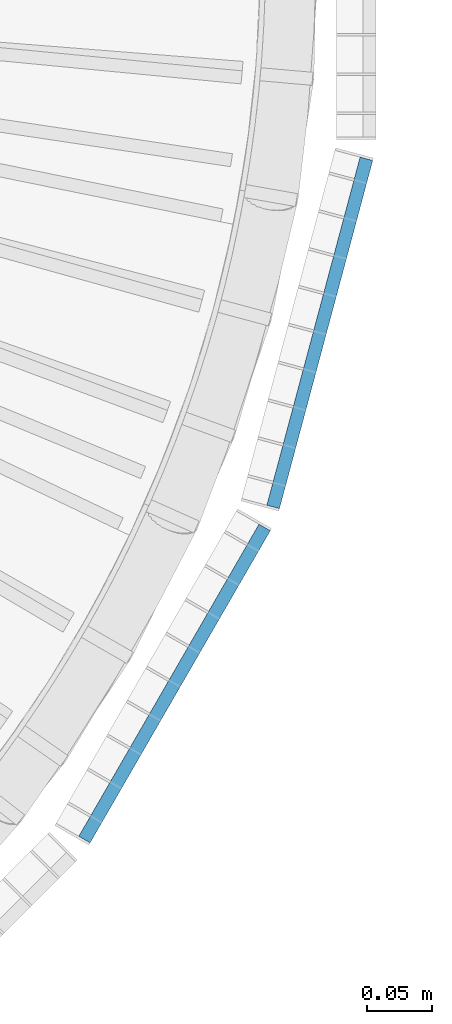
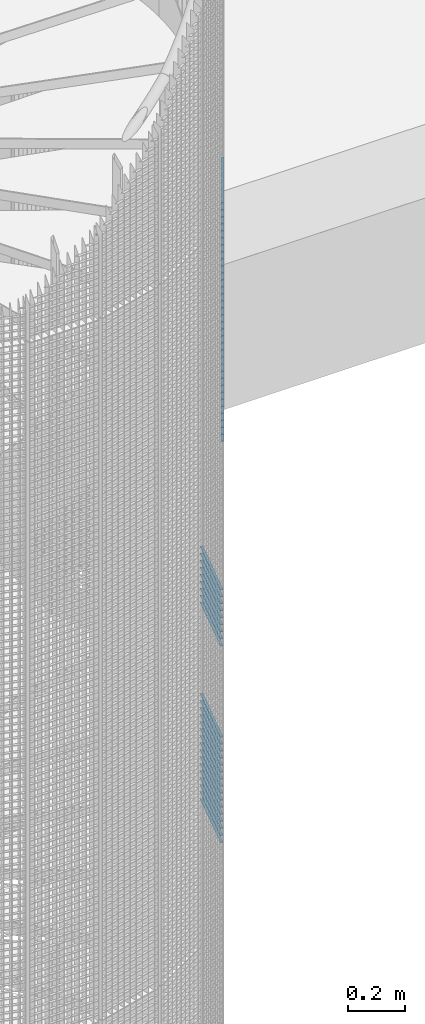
# One storey, part 241 of 1148: 60 beams, 2 elements without a shape of their own.
"""IFC2X3 building model written with IfcOpenShell, lengths in millimetres."""

import ifcopenshell
import ifcopenshell.guid

model = None  # the IFC model being written
_history = None  # IfcOwnerHistory: only IFC2X3 demands one
_inside = {}  # id of a spatial element -> (the spatial element, [elements in it])
_under = {}  # id of a project, library or spatial element -> (it, [spatial elements below it])
_declared = {}  # id of a project -> (the project, [libraries it declares])
_typed = {}  # id of a type object -> (the type object, [elements of that type])
_made_of = {}  # id of a material, layer set ... -> (it, [elements and type objects made of it])


def new_model(schema):
    """Start an empty IFC model of exactly this schema.

    Asked for "IFC4X3", IfcOpenShell would pick the latest addendum, in which some entities
    have other attributes; the version numbers below select the first issue.
    IFC2X3 requires an IfcOwnerHistory on every rooted entity: one is made here for all.
    """
    global model, _history
    if schema == "IFC4X3":
        model = ifcopenshell.file(schema_version=(4, 3, 0, 0))
    else:
        model = ifcopenshell.file(schema=schema)
    _inside.clear()
    _under.clear()
    _declared.clear()
    _typed.clear()
    _made_of.clear()
    _history = None
    if model.schema == "IFC2X3":
        org = make("IfcOrganization", Name="unknown")
        user = make(
            "IfcPersonAndOrganization",
            ThePerson=make("IfcPerson", FamilyName="unknown"),
            TheOrganization=org,
        )
        app = make(
            "IfcApplication",
            ApplicationDeveloper=org,
            Version="unknown",
            ApplicationFullName="unknown",
            ApplicationIdentifier="unknown",
        )
        _history = make(
            "IfcOwnerHistory",
            OwningUser=user,
            OwningApplication=app,
            ChangeAction="ADDED",
            CreationDate=0,
        )
    return model


def make(cls, **values):
    """One entity of the class cls with the attributes given. An attribute that is None is left unset."""
    return model.create_entity(
        cls, **{name: value for name, value in values.items() if value is not None}
    )


def rooted(cls, **values):
    """An entity with a GlobalId (a new one), such as an element, a storey or a relation."""
    return make(cls, GlobalId=ifcopenshell.guid.new(), OwnerHistory=_history, **values)


def si_unit(unit_type, name, prefix=None):
    """IfcSIUnit, for example si_unit("LENGTHUNIT", "METRE", prefix="MILLI")."""
    return make("IfcSIUnit", UnitType=unit_type, Prefix=prefix, Name=name)


def assignment(units):
    """IfcUnitAssignment: the units of a project."""
    return None if units is None else make("IfcUnitAssignment", Units=units)


def point(xyz):
    """IfcCartesianPoint."""
    return None if xyz is None else make("IfcCartesianPoint", Coordinates=xyz)


def direction(xyz):
    """IfcDirection."""
    return None if xyz is None else make("IfcDirection", DirectionRatios=xyz)


def frame(location, z_axis=None, x_axis=None):
    """IfcAxis2Placement3D, a coordinate frame: its origin and axes. An axis left out is left unset."""
    return make(
        "IfcAxis2Placement3D",
        Location=point(location),
        Axis=direction(z_axis),
        RefDirection=direction(x_axis),
    )


def frame_2d(location, x_axis=None):
    """IfcAxis2Placement2D, a coordinate frame in the plane: its origin and x axis."""
    return make(
        "IfcAxis2Placement2D", Location=point(location), RefDirection=direction(x_axis)
    )


def origin_with_axes():
    """The frame at (0, 0, 0) with the z axis (0, 0, 1) and the x axis (1, 0, 0) written out."""
    return frame((0.0, 0.0, 0.0), z_axis=(0.0, 0.0, 1.0), x_axis=(1.0, 0.0, 0.0))


def origin_2d_with_axis():
    """The frame at (0, 0) in the plane with the x axis (1, 0) written out."""
    return frame_2d((0.0, 0.0), x_axis=(1.0, 0.0))


def place(relative_to, where):
    """IfcLocalPlacement: puts the frame where relative to a parent placement (None: the world)."""
    return make(
        "IfcLocalPlacement", PlacementRelTo=relative_to, RelativePlacement=where
    )


def context(
    kind, dimensions, precision=None, world=None, true_north=None, identifier=None
):
    """IfcGeometricRepresentationContext, for example the 3D "Model" context."""
    return make(
        "IfcGeometricRepresentationContext",
        ContextIdentifier=identifier,
        ContextType=kind,
        CoordinateSpaceDimension=dimensions,
        Precision=precision,
        WorldCoordinateSystem=world,
        TrueNorth=true_north,
    )


def subcontext(parent, identifier, kind, view, scale=None):
    """IfcGeometricRepresentationSubContext, for example "Body" below "Model"."""
    return make(
        "IfcGeometricRepresentationSubContext",
        ContextIdentifier=identifier,
        ContextType=kind,
        ParentContext=parent,
        TargetScale=scale,
        TargetView=view,
    )


def project(units=None, contexts=None):
    """IfcProject with its units and contexts."""
    return rooted(
        "IfcProject",
        Name="project",
        RepresentationContexts=contexts,
        UnitsInContext=assignment(units),
    )


def spatial(cls, under=None, at=None, **own):
    """A site, building, storey or space (cls), placed at a placement, below another one or the project."""
    s = rooted(cls, ObjectPlacement=at, **own)
    if under is not None:
        _under.setdefault(under.id(), (under, []))[1].append(s)
    return s


def profile(cls, at=None, kind="AREA", **sizes):
    """A parametric profile (cls). Its sizes go by their IFC names, for example OverallWidth=200.0."""
    return make(cls, ProfileType=kind, Position=at, **sizes)


def rectangle(**sizes):
    """IfcRectangleProfileDef."""
    return profile("IfcRectangleProfileDef", **sizes)


def extrude(swept, where, along, depth):
    """IfcExtrudedAreaSolid: the profile swept, set in the frame where, extruded along a direction by depth."""
    return make(
        "IfcExtrudedAreaSolid",
        SweptArea=swept,
        Position=where,
        ExtrudedDirection=direction(along),
        Depth=depth,
    )


def shape(context_of_items, identifier, shape_type, items):
    """IfcShapeRepresentation: the items that make up one representation, for example the "Body"."""
    return make(
        "IfcShapeRepresentation",
        ContextOfItems=context_of_items,
        RepresentationIdentifier=identifier,
        RepresentationType=shape_type,
        Items=items,
    )


def material(Name=None, Category=None):
    """IfcMaterial."""
    return make("IfcMaterial", Name=Name, Category=Category)


def made_of(thing, what):
    """Note that an element or type object is made of a material, layer set ...; save() writes the relation."""
    if what is not None:
        _made_of.setdefault(what.id(), (what, []))[1].append(thing)
    return thing


def type_object(cls, material=None, **own):
    """A type object (cls), such as IfcWallType, which elements share."""
    return made_of(rooted(cls, **own), material)


def element(
    cls,
    number,
    at=None,
    inside=None,
    cuts=None,
    type_object=None,
    material=None,
    context=None,
    identifier="Body",
    shape_type=None,
    held_by="IfcProductDefinitionShape",
    body=None,
    shapes=None,
    **own,
):
    """One element of the class cls, such as IfcWall. Its Tag is "e" and its number.

    at: its placement. inside: the storey or other place that contains it. cuts: it is an
    opening in that element (IfcRelVoidsElement). A single representation is given by context,
    identifier, shape_type and body (its items); several are given by shapes. held_by: the class
    of the entity that holds the representations. save() writes the other relations.
    """
    e = rooted(cls, Tag="e%d" % number, ObjectPlacement=at, **own)
    if body is not None:
        shapes = [shape(context, identifier, shape_type, body)]
    if shapes is not None:
        e.Representation = make(held_by, Representations=shapes)
    if inside is not None:
        _inside.setdefault(inside.id(), (inside, []))[1].append(e)
    if cuts is not None:
        rooted(
            "IfcRelVoidsElement", RelatingBuildingElement=cuts, RelatedOpeningElement=e
        )
    if type_object is not None:
        _typed.setdefault(type_object.id(), (type_object, []))[1].append(e)
    return made_of(e, material)


def aggregate(whole, parts):
    """IfcRelAggregates: a whole, such as a stair, and the parts it consists of."""
    return rooted("IfcRelAggregates", RelatingObject=whole, RelatedObjects=parts)


def save(model, path):
    """Write the relations noted so far, then the file.

    IfcRelAggregates (storeys below a building ...), IfcRelContainedInSpatialStructure (elements
    in a storey), IfcRelDefinesByType, IfcRelAssociatesMaterial and IfcRelDeclares: one each for
    every whole, place, type object, material and project.
    """
    for whole, parts in _under.values():
        aggregate(whole, parts)
    for where, things in _inside.values():
        rooted(
            "IfcRelContainedInSpatialStructure",
            RelatedElements=things,
            RelatingStructure=where,
        )
    for kind, things in _typed.values():
        rooted("IfcRelDefinesByType", RelatedObjects=things, RelatingType=kind)
    for what, things in _made_of.values():
        rooted("IfcRelAssociatesMaterial", RelatedObjects=things, RelatingMaterial=what)
    for by, libraries in _declared.values():
        rooted("IfcRelDeclares", RelatingContext=by, RelatedDefinitions=libraries)
    model.write(path)


model = new_model("IFC2X3")

# Units and contexts
model_context = context("Model", 3, precision=1e-05, world=origin_with_axes())
body_context = subcontext(model_context, "Body", "Model", "MODEL_VIEW")
ifc_project = project(units=[si_unit("LENGTHUNIT", "METRE", prefix="MILLI"), si_unit("AREAUNIT", "SQUARE_METRE"), si_unit("VOLUMEUNIT", "CUBIC_METRE"), si_unit("MASSUNIT", "GRAM", prefix="KILO"), si_unit("TIMEUNIT", "SECOND"), si_unit("PLANEANGLEUNIT", "RADIAN"), si_unit("SOLIDANGLEUNIT", "STERADIAN"), si_unit("THERMODYNAMICTEMPERATUREUNIT", "DEGREE_CELSIUS"), si_unit("LUMINOUSINTENSITYUNIT", "LUMEN")], contexts=[model_context])

# Site, building, storey
site_placement = place(None, origin_with_axes())
site = spatial("IfcSite", under=ifc_project, at=site_placement, Name="Undefined", CompositionType="ELEMENT")
building_placement = place(site_placement, origin_with_axes())
building = spatial("IfcBuilding", under=site, at=building_placement, Name="Undefined", CompositionType="ELEMENT")
storey_placement = place(building_placement, origin_with_axes())
storey = spatial("IfcBuildingStorey", under=building, at=storey_placement, Name="Undefined", CompositionType="ELEMENT", Elevation=0.0)

# Assembly, beams
assembly_1_placement = place(storey_placement, origin_with_axes())
assembly_1 = element("IfcElementAssembly", 1, at=assembly_1_placement, inside=storey, Name="BORDURE", AssemblyPlace="NOTDEFINED", PredefinedType="NOTDEFINED")
ifc_material = material(Name="STEEL/S235JR")
beam_type = type_object("IfcBeamType", Name="PL2*10", PredefinedType="NOTDEFINED")
beam_1_placement = place(assembly_1_placement, frame((1039.82309522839, -421.483733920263, 6480.0), z_axis=(0.965925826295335, -0.258819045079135, 0.0), x_axis=(0.258819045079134, 0.965925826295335, 0.0)))
beam_1 = element("IfcBeam", 2, at=beam_1_placement, type_object=beam_type, material=ifc_material, Name="ENTRETOISE", context=body_context, shape_type="SweptSolid", body=[
    extrude(rectangle(XDim=2.0, YDim=10.0, at=origin_2d_with_axis()), frame((275.999999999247, 9.09494701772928e-13, 1.53210777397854e-14), z_axis=(-1.0, 0.0, 0.0), x_axis=(0.0, -1.0, 0.0)), (0.0, 0.0, 1.0), 276.0),
])
beam_2_placement = place(assembly_1_placement, frame((1039.82309522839, -421.483733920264, 6870.0), z_axis=(0.965925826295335, -0.258819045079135, 0.0), x_axis=(0.258819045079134, 0.965925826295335, 0.0)))
beam_2 = element("IfcBeam", 3, at=beam_2_placement, type_object=beam_type, material=ifc_material, Name="ENTRETOISE", context=body_context, shape_type="SweptSolid", body=[
    extrude(rectangle(XDim=2.0, YDim=10.0, at=origin_2d_with_axis()), frame((275.999999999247, 9.09494701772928e-13, 1.53210777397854e-14), z_axis=(-1.0, 0.0, 0.0), x_axis=(0.0, -1.0, 0.0)), (0.0, 0.0, 1.0), 276.0),
])
beam_3_placement = place(assembly_1_placement, frame((1039.82309522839, -421.483733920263, 6450.0), z_axis=(0.965925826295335, -0.258819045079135, 0.0), x_axis=(0.258819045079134, 0.965925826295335, 0.0)))
beam_3 = element("IfcBeam", 4, at=beam_3_placement, type_object=beam_type, material=ifc_material, Name="ENTRETOISE", context=body_context, shape_type="SweptSolid", body=[
    extrude(rectangle(XDim=2.0, YDim=10.0, at=origin_2d_with_axis()), frame((275.999999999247, 9.09494701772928e-13, 1.53210777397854e-14), z_axis=(-1.0, 0.0, 0.0), x_axis=(0.0, -1.0, 0.0)), (0.0, 0.0, 1.0), 276.0),
])
beam_4_placement = place(assembly_1_placement, frame((1039.82309522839, -421.483733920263, 6420.0), z_axis=(0.965925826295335, -0.258819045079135, 0.0), x_axis=(0.258819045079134, 0.965925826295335, 0.0)))
beam_4 = element("IfcBeam", 5, at=beam_4_placement, type_object=beam_type, material=ifc_material, Name="ENTRETOISE", context=body_context, shape_type="SweptSolid", body=[
    extrude(rectangle(XDim=2.0, YDim=10.0, at=origin_2d_with_axis()), frame((275.999999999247, 9.09494701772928e-13, 1.53210777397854e-14), z_axis=(-1.0, 0.0, 0.0), x_axis=(0.0, -1.0, 0.0)), (0.0, 0.0, 1.0), 276.0),
])
beam_5_placement = place(assembly_1_placement, frame((1039.82309522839, -421.483733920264, 6900.0), z_axis=(0.965925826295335, -0.258819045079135, 0.0), x_axis=(0.258819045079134, 0.965925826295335, 0.0)))
beam_5 = element("IfcBeam", 6, at=beam_5_placement, type_object=beam_type, material=ifc_material, Name="ENTRETOISE", context=body_context, shape_type="SweptSolid", body=[
    extrude(rectangle(XDim=2.0, YDim=10.0, at=origin_2d_with_axis()), frame((275.999999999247, 9.09494701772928e-13, 1.53210777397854e-14), z_axis=(-1.0, 0.0, 0.0), x_axis=(0.0, -1.0, 0.0)), (0.0, 0.0, 1.0), 276.0),
])
beam_6_placement = place(assembly_1_placement, frame((1039.82309522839, -421.483733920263, 6390.0), z_axis=(0.965925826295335, -0.258819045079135, 0.0), x_axis=(0.258819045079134, 0.965925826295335, 0.0)))
beam_6 = element("IfcBeam", 7, at=beam_6_placement, type_object=beam_type, material=ifc_material, Name="ENTRETOISE", context=body_context, shape_type="SweptSolid", body=[
    extrude(rectangle(XDim=2.0, YDim=10.0, at=origin_2d_with_axis()), frame((275.999999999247, 9.09494701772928e-13, 1.53210777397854e-14), z_axis=(-1.0, 0.0, 0.0), x_axis=(0.0, -1.0, 0.0)), (0.0, 0.0, 1.0), 276.0),
])
beam_7_placement = place(assembly_1_placement, frame((1039.82309522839, -421.483733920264, 6930.0), z_axis=(0.965925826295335, -0.258819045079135, 0.0), x_axis=(0.258819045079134, 0.965925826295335, 0.0)))
beam_7 = element("IfcBeam", 8, at=beam_7_placement, type_object=beam_type, material=ifc_material, Name="ENTRETOISE", context=body_context, shape_type="SweptSolid", body=[
    extrude(rectangle(XDim=2.0, YDim=10.0, at=origin_2d_with_axis()), frame((275.999999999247, 9.09494701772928e-13, 1.53210777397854e-14), z_axis=(-1.0, 0.0, 0.0), x_axis=(0.0, -1.0, 0.0)), (0.0, 0.0, 1.0), 276.0),
])
beam_8_placement = place(assembly_1_placement, frame((1039.82309522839, -421.483733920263, 6360.0), z_axis=(0.965925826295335, -0.258819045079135, 0.0), x_axis=(0.258819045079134, 0.965925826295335, 0.0)))
beam_8 = element("IfcBeam", 9, at=beam_8_placement, type_object=beam_type, material=ifc_material, Name="ENTRETOISE", context=body_context, shape_type="SweptSolid", body=[
    extrude(rectangle(XDim=2.0, YDim=10.0, at=origin_2d_with_axis()), frame((275.999999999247, 9.09494701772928e-13, 1.53210777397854e-14), z_axis=(-1.0, 0.0, 0.0), x_axis=(0.0, -1.0, 0.0)), (0.0, 0.0, 1.0), 276.0),
])
beam_9_placement = place(assembly_1_placement, frame((1039.82309522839, -421.483733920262, 6330.0), z_axis=(0.965925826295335, -0.258819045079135, 0.0), x_axis=(0.258819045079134, 0.965925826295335, 0.0)))
beam_9 = element("IfcBeam", 10, at=beam_9_placement, type_object=beam_type, material=ifc_material, Name="ENTRETOISE", context=body_context, shape_type="SweptSolid", body=[
    extrude(rectangle(XDim=2.0, YDim=10.0, at=origin_2d_with_axis()), frame((275.999999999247, 9.09494701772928e-13, 1.53210777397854e-14), z_axis=(-1.0, 0.0, 0.0), x_axis=(0.0, -1.0, 0.0)), (0.0, 0.0, 1.0), 276.0),
])
beam_10_placement = place(assembly_1_placement, frame((1039.82309522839, -421.483733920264, 6960.0), z_axis=(0.965925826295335, -0.258819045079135, 0.0), x_axis=(0.258819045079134, 0.965925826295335, 0.0)))
beam_10 = element("IfcBeam", 11, at=beam_10_placement, type_object=beam_type, material=ifc_material, Name="ENTRETOISE", context=body_context, shape_type="SweptSolid", body=[
    extrude(rectangle(XDim=2.0, YDim=10.0, at=origin_2d_with_axis()), frame((275.999999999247, 9.09494701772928e-13, 1.53210777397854e-14), z_axis=(-1.0, 0.0, 0.0), x_axis=(0.0, -1.0, 0.0)), (0.0, 0.0, 1.0), 276.0),
])
beam_11_placement = place(assembly_1_placement, frame((1039.82309522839, -421.483733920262, 6300.0), z_axis=(0.965925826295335, -0.258819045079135, 0.0), x_axis=(0.258819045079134, 0.965925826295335, 0.0)))
beam_11 = element("IfcBeam", 12, at=beam_11_placement, type_object=beam_type, material=ifc_material, Name="ENTRETOISE", context=body_context, shape_type="SweptSolid", body=[
    extrude(rectangle(XDim=2.0, YDim=10.0, at=origin_2d_with_axis()), frame((275.999999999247, 9.09494701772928e-13, 1.53210777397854e-14), z_axis=(-1.0, 0.0, 0.0), x_axis=(0.0, -1.0, 0.0)), (0.0, 0.0, 1.0), 276.0),
])
beam_12_placement = place(assembly_1_placement, frame((1039.82309522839, -421.483733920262, 6270.0), z_axis=(0.965925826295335, -0.258819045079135, 0.0), x_axis=(0.258819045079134, 0.965925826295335, 0.0)))
beam_12 = element("IfcBeam", 13, at=beam_12_placement, type_object=beam_type, material=ifc_material, Name="ENTRETOISE", context=body_context, shape_type="SweptSolid", body=[
    extrude(rectangle(XDim=2.0, YDim=10.0, at=origin_2d_with_axis()), frame((275.999999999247, 9.09494701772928e-13, 1.53210777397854e-14), z_axis=(-1.0, 0.0, 0.0), x_axis=(0.0, -1.0, 0.0)), (0.0, 0.0, 1.0), 276.0),
])
beam_13_placement = place(assembly_1_placement, frame((1039.82309522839, -421.483733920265, 6990.0), z_axis=(0.965925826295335, -0.258819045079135, 0.0), x_axis=(0.258819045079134, 0.965925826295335, 0.0)))
beam_13 = element("IfcBeam", 14, at=beam_13_placement, type_object=beam_type, material=ifc_material, Name="ENTRETOISE", context=body_context, shape_type="SweptSolid", body=[
    extrude(rectangle(XDim=2.0, YDim=10.0, at=origin_2d_with_axis()), frame((275.999999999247, 9.09494701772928e-13, 1.53210777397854e-14), z_axis=(-1.0, 0.0, 0.0), x_axis=(0.0, -1.0, 0.0)), (0.0, 0.0, 1.0), 276.0),
])
beam_14_placement = place(assembly_1_placement, frame((1039.82309522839, -421.483733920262, 6240.0), z_axis=(0.965925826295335, -0.258819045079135, 0.0), x_axis=(0.258819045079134, 0.965925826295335, 0.0)))
beam_14 = element("IfcBeam", 15, at=beam_14_placement, type_object=beam_type, material=ifc_material, Name="ENTRETOISE", context=body_context, shape_type="SweptSolid", body=[
    extrude(rectangle(XDim=2.0, YDim=10.0, at=origin_2d_with_axis()), frame((275.999999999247, 9.09494701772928e-13, 1.53210777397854e-14), z_axis=(-1.0, 0.0, 0.0), x_axis=(0.0, -1.0, 0.0)), (0.0, 0.0, 1.0), 276.0),
])
beam_15_placement = place(assembly_1_placement, frame((1039.82309522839, -421.483733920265, 7020.0), z_axis=(0.965925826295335, -0.258819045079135, 0.0), x_axis=(0.258819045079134, 0.965925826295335, 0.0)))
beam_15 = element("IfcBeam", 16, at=beam_15_placement, type_object=beam_type, material=ifc_material, Name="ENTRETOISE", context=body_context, shape_type="SweptSolid", body=[
    extrude(rectangle(XDim=2.0, YDim=10.0, at=origin_2d_with_axis()), frame((275.999999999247, 9.09494701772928e-13, 1.53210777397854e-14), z_axis=(-1.0, 0.0, 0.0), x_axis=(0.0, -1.0, 0.0)), (0.0, 0.0, 1.0), 276.0),
])
beam_16_placement = place(assembly_1_placement, frame((1039.82309522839, -421.483733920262, 6210.0), z_axis=(0.965925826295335, -0.258819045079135, 0.0), x_axis=(0.258819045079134, 0.965925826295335, 0.0)))
beam_16 = element("IfcBeam", 17, at=beam_16_placement, type_object=beam_type, material=ifc_material, Name="ENTRETOISE", context=body_context, shape_type="SweptSolid", body=[
    extrude(rectangle(XDim=2.0, YDim=10.0, at=origin_2d_with_axis()), frame((275.999999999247, 9.09494701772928e-13, 1.53210777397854e-14), z_axis=(-1.0, 0.0, 0.0), x_axis=(0.0, -1.0, 0.0)), (0.0, 0.0, 1.0), 276.0),
])
beam_17_placement = place(assembly_1_placement, frame((1039.82309522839, -421.483733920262, 6180.0), z_axis=(0.965925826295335, -0.258819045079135, 0.0), x_axis=(0.258819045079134, 0.965925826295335, 0.0)))
beam_17 = element("IfcBeam", 18, at=beam_17_placement, type_object=beam_type, material=ifc_material, Name="ENTRETOISE", context=body_context, shape_type="SweptSolid", body=[
    extrude(rectangle(XDim=2.0, YDim=10.0, at=origin_2d_with_axis()), frame((275.999999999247, 9.09494701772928e-13, 1.53210777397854e-14), z_axis=(-1.0, 0.0, 0.0), x_axis=(0.0, -1.0, 0.0)), (0.0, 0.0, 1.0), 276.0),
])
beam_18_placement = place(assembly_1_placement, frame((1039.82309522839, -421.483733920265, 7050.0), z_axis=(0.965925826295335, -0.258819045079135, 0.0), x_axis=(0.258819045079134, 0.965925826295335, 0.0)))
beam_18 = element("IfcBeam", 19, at=beam_18_placement, type_object=beam_type, material=ifc_material, Name="ENTRETOISE", context=body_context, shape_type="SweptSolid", body=[
    extrude(rectangle(XDim=2.0, YDim=10.0, at=origin_2d_with_axis()), frame((275.999999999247, 9.09494701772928e-13, 1.53210777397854e-14), z_axis=(-1.0, 0.0, 0.0), x_axis=(0.0, -1.0, 0.0)), (0.0, 0.0, 1.0), 276.0),
])
beam_19_placement = place(assembly_1_placement, frame((1039.82309522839, -421.483733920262, 6150.0), z_axis=(0.965925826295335, -0.258819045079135, 0.0), x_axis=(0.258819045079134, 0.965925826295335, 0.0)))
beam_19 = element("IfcBeam", 20, at=beam_19_placement, type_object=beam_type, material=ifc_material, Name="ENTRETOISE", context=body_context, shape_type="SweptSolid", body=[
    extrude(rectangle(XDim=2.0, YDim=10.0, at=origin_2d_with_axis()), frame((275.999999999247, 9.09494701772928e-13, 1.53210777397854e-14), z_axis=(-1.0, 0.0, 0.0), x_axis=(0.0, -1.0, 0.0)), (0.0, 0.0, 1.0), 276.0),
])
beam_20_placement = place(assembly_1_placement, frame((1039.82309522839, -421.483733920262, 6120.0), z_axis=(0.965925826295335, -0.258819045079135, 0.0), x_axis=(0.258819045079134, 0.965925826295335, 0.0)))
beam_20 = element("IfcBeam", 21, at=beam_20_placement, type_object=beam_type, material=ifc_material, Name="ENTRETOISE", context=body_context, shape_type="SweptSolid", body=[
    extrude(rectangle(XDim=2.0, YDim=10.0, at=origin_2d_with_axis()), frame((275.999999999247, 9.09494701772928e-13, 1.53210777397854e-14), z_axis=(-1.0, 0.0, 0.0), x_axis=(0.0, -1.0, 0.0)), (0.0, 0.0, 1.0), 276.0),
])
beam_21_placement = place(assembly_1_placement, frame((1039.82309522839, -421.483733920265, 7080.0), z_axis=(0.965925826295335, -0.258819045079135, 0.0), x_axis=(0.258819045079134, 0.965925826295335, 0.0)))
beam_21 = element("IfcBeam", 22, at=beam_21_placement, type_object=beam_type, material=ifc_material, Name="ENTRETOISE", context=body_context, shape_type="SweptSolid", body=[
    extrude(rectangle(XDim=2.0, YDim=10.0, at=origin_2d_with_axis()), frame((275.999999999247, 9.09494701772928e-13, 1.53210777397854e-14), z_axis=(-1.0, 0.0, 0.0), x_axis=(0.0, -1.0, 0.0)), (0.0, 0.0, 1.0), 276.0),
])
beam_22_placement = place(assembly_1_placement, frame((1039.82309522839, -421.483733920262, 6090.0), z_axis=(0.965925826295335, -0.258819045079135, 0.0), x_axis=(0.258819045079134, 0.965925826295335, 0.0)))
beam_22 = element("IfcBeam", 23, at=beam_22_placement, type_object=beam_type, material=ifc_material, Name="ENTRETOISE", context=body_context, shape_type="SweptSolid", body=[
    extrude(rectangle(XDim=2.0, YDim=10.0, at=origin_2d_with_axis()), frame((275.999999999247, 9.09494701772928e-13, 1.53210777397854e-14), z_axis=(-1.0, 0.0, 0.0), x_axis=(0.0, -1.0, 0.0)), (0.0, 0.0, 1.0), 276.0),
])
beam_23_placement = place(assembly_1_placement, frame((1039.82309522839, -421.483733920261, 6060.0), z_axis=(0.965925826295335, -0.258819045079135, 0.0), x_axis=(0.258819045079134, 0.965925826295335, 0.0)))
beam_23 = element("IfcBeam", 24, at=beam_23_placement, type_object=beam_type, material=ifc_material, Name="ENTRETOISE", context=body_context, shape_type="SweptSolid", body=[
    extrude(rectangle(XDim=2.0, YDim=10.0, at=origin_2d_with_axis()), frame((275.999999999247, 9.09494701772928e-13, 1.53210777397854e-14), z_axis=(-1.0, 0.0, 0.0), x_axis=(0.0, -1.0, 0.0)), (0.0, 0.0, 1.0), 276.0),
])
beam_24_placement = place(assembly_1_placement, frame((1039.82309522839, -421.483733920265, 7110.0), z_axis=(0.965925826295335, -0.258819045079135, 0.0), x_axis=(0.258819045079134, 0.965925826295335, 0.0)))
beam_24 = element("IfcBeam", 25, at=beam_24_placement, type_object=beam_type, material=ifc_material, Name="ENTRETOISE", context=body_context, shape_type="SweptSolid", body=[
    extrude(rectangle(XDim=2.0, YDim=10.0, at=origin_2d_with_axis()), frame((275.999999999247, 9.09494701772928e-13, 1.53210777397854e-14), z_axis=(-1.0, 0.0, 0.0), x_axis=(0.0, -1.0, 0.0)), (0.0, 0.0, 1.0), 276.0),
])
beam_25_placement = place(assembly_1_placement, frame((1039.82309522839, -421.48373392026, 6030.0), z_axis=(0.965925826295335, -0.258819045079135, 0.0), x_axis=(0.258819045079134, 0.965925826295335, 0.0)))
beam_25 = element("IfcBeam", 26, at=beam_25_placement, type_object=beam_type, material=ifc_material, Name="ENTRETOISE", context=body_context, shape_type="SweptSolid", body=[
    extrude(rectangle(XDim=2.0, YDim=10.0, at=origin_2d_with_axis()), frame((275.999999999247, 9.09494701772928e-13, 1.53210777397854e-14), z_axis=(-1.0, 0.0, 0.0), x_axis=(0.0, -1.0, 0.0)), (0.0, 0.0, 1.0), 276.0),
])
aggregate(assembly_1, [beam_1, beam_2, beam_3, beam_4, beam_5, beam_6, beam_7, beam_8, beam_9, beam_10, beam_11, beam_12, beam_13, beam_14, beam_15, beam_16, beam_17, beam_18, beam_19, beam_20, beam_21, beam_22, beam_23, beam_24, beam_25])

assembly_2_placement = place(storey_placement, origin_with_axes())
assembly_2 = element("IfcElementAssembly", 27, at=assembly_2_placement, inside=storey, Name="BORDURE", AssemblyPlace="NOTDEFINED", PredefinedType="NOTDEFINED")
beam_26_placement = place(assembly_2_placement, frame((895.303964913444, -676.248044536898, 8970.0), z_axis=(0.866025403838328, -0.49999999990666, 0.0), x_axis=(0.49999999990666, 0.866025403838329, 0.0)))
beam_26 = element("IfcBeam", 28, at=beam_26_placement, type_object=beam_type, material=ifc_material, Name="ENTRETOISE", context=body_context, shape_type="SweptSolid", body=[
    extrude(rectangle(XDim=2.0, YDim=10.0, at=origin_2d_with_axis()), frame((275.999999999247, 9.09494701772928e-13, 1.53210777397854e-14), z_axis=(-1.0, 0.0, 0.0), x_axis=(0.0, -1.0, 0.0)), (0.0, 0.0, 1.0), 276.0),
])
beam_27_placement = place(assembly_2_placement, frame((895.303964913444, -676.248044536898, 8940.0), z_axis=(0.866025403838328, -0.49999999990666, 0.0), x_axis=(0.49999999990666, 0.866025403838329, 0.0)))
beam_27 = element("IfcBeam", 29, at=beam_27_placement, type_object=beam_type, material=ifc_material, Name="ENTRETOISE", context=body_context, shape_type="SweptSolid", body=[
    extrude(rectangle(XDim=2.0, YDim=10.0, at=origin_2d_with_axis()), frame((275.999999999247, 9.09494701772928e-13, 1.53210777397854e-14), z_axis=(-1.0, 0.0, 0.0), x_axis=(0.0, -1.0, 0.0)), (0.0, 0.0, 1.0), 276.0),
])
beam_28_placement = place(assembly_2_placement, frame((895.303964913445, -676.248044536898, 8910.0), z_axis=(0.866025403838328, -0.49999999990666, 0.0), x_axis=(0.49999999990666, 0.866025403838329, 0.0)))
beam_28 = element("IfcBeam", 30, at=beam_28_placement, type_object=beam_type, material=ifc_material, Name="ENTRETOISE", context=body_context, shape_type="SweptSolid", body=[
    extrude(rectangle(XDim=2.0, YDim=10.0, at=origin_2d_with_axis()), frame((275.999999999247, 9.09494701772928e-13, 1.53210777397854e-14), z_axis=(-1.0, 0.0, 0.0), x_axis=(0.0, -1.0, 0.0)), (0.0, 0.0, 1.0), 276.0),
])
beam_29_placement = place(assembly_2_placement, frame((895.303964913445, -676.248044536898, 8880.0), z_axis=(0.866025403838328, -0.49999999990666, 0.0), x_axis=(0.49999999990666, 0.866025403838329, 0.0)))
beam_29 = element("IfcBeam", 31, at=beam_29_placement, type_object=beam_type, material=ifc_material, Name="ENTRETOISE", context=body_context, shape_type="SweptSolid", body=[
    extrude(rectangle(XDim=2.0, YDim=10.0, at=origin_2d_with_axis()), frame((275.999999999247, 9.09494701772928e-13, 1.53210777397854e-14), z_axis=(-1.0, 0.0, 0.0), x_axis=(0.0, -1.0, 0.0)), (0.0, 0.0, 1.0), 276.0),
])
beam_30_placement = place(assembly_2_placement, frame((895.303964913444, -676.248044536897, 8850.0), z_axis=(0.866025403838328, -0.49999999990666, 0.0), x_axis=(0.49999999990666, 0.866025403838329, 0.0)))
beam_30 = element("IfcBeam", 32, at=beam_30_placement, type_object=beam_type, material=ifc_material, Name="ENTRETOISE", context=body_context, shape_type="SweptSolid", body=[
    extrude(rectangle(XDim=2.0, YDim=10.0, at=origin_2d_with_axis()), frame((275.999999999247, 9.09494701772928e-13, 1.53210777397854e-14), z_axis=(-1.0, 0.0, 0.0), x_axis=(0.0, -1.0, 0.0)), (0.0, 0.0, 1.0), 276.0),
])
beam_31_placement = place(assembly_2_placement, frame((895.303964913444, -676.248044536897, 8820.0), z_axis=(0.866025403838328, -0.49999999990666, 0.0), x_axis=(0.49999999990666, 0.866025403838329, 0.0)))
beam_31 = element("IfcBeam", 33, at=beam_31_placement, type_object=beam_type, material=ifc_material, Name="ENTRETOISE", context=body_context, shape_type="SweptSolid", body=[
    extrude(rectangle(XDim=2.0, YDim=10.0, at=origin_2d_with_axis()), frame((275.999999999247, 9.09494701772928e-13, 1.53210777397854e-14), z_axis=(-1.0, 0.0, 0.0), x_axis=(0.0, -1.0, 0.0)), (0.0, 0.0, 1.0), 276.0),
])
beam_32_placement = place(assembly_2_placement, frame((895.303964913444, -676.248044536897, 8790.0), z_axis=(0.866025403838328, -0.49999999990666, 0.0), x_axis=(0.49999999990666, 0.866025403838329, 0.0)))
beam_32 = element("IfcBeam", 34, at=beam_32_placement, type_object=beam_type, material=ifc_material, Name="ENTRETOISE", context=body_context, shape_type="SweptSolid", body=[
    extrude(rectangle(XDim=2.0, YDim=10.0, at=origin_2d_with_axis()), frame((275.999999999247, 9.09494701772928e-13, 1.53210777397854e-14), z_axis=(-1.0, 0.0, 0.0), x_axis=(0.0, -1.0, 0.0)), (0.0, 0.0, 1.0), 276.0),
])
beam_33_placement = place(assembly_2_placement, frame((895.303964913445, -676.248044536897, 8760.0), z_axis=(0.866025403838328, -0.49999999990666, 0.0), x_axis=(0.49999999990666, 0.866025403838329, 0.0)))
beam_33 = element("IfcBeam", 35, at=beam_33_placement, type_object=beam_type, material=ifc_material, Name="ENTRETOISE", context=body_context, shape_type="SweptSolid", body=[
    extrude(rectangle(XDim=2.0, YDim=10.0, at=origin_2d_with_axis()), frame((275.999999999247, 9.09494701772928e-13, 1.53210777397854e-14), z_axis=(-1.0, 0.0, 0.0), x_axis=(0.0, -1.0, 0.0)), (0.0, 0.0, 1.0), 276.0),
])
beam_34_placement = place(assembly_2_placement, frame((895.303964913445, -676.248044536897, 8730.0), z_axis=(0.866025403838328, -0.49999999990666, 0.0), x_axis=(0.49999999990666, 0.866025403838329, 0.0)))
beam_34 = element("IfcBeam", 36, at=beam_34_placement, type_object=beam_type, material=ifc_material, Name="ENTRETOISE", context=body_context, shape_type="SweptSolid", body=[
    extrude(rectangle(XDim=2.0, YDim=10.0, at=origin_2d_with_axis()), frame((275.999999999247, 9.09494701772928e-13, 1.53210777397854e-14), z_axis=(-1.0, 0.0, 0.0), x_axis=(0.0, -1.0, 0.0)), (0.0, 0.0, 1.0), 276.0),
])
beam_35_placement = place(assembly_2_placement, frame((895.303964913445, -676.248044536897, 8700.0), z_axis=(0.866025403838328, -0.49999999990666, 0.0), x_axis=(0.49999999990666, 0.866025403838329, 0.0)))
beam_35 = element("IfcBeam", 37, at=beam_35_placement, type_object=beam_type, material=ifc_material, Name="ENTRETOISE", context=body_context, shape_type="SweptSolid", body=[
    extrude(rectangle(XDim=2.0, YDim=10.0, at=origin_2d_with_axis()), frame((275.999999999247, 9.09494701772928e-13, 1.53210777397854e-14), z_axis=(-1.0, 0.0, 0.0), x_axis=(0.0, -1.0, 0.0)), (0.0, 0.0, 1.0), 276.0),
])
beam_36_placement = place(assembly_2_placement, frame((895.303964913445, -676.248044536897, 8670.0), z_axis=(0.866025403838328, -0.49999999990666, 0.0), x_axis=(0.49999999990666, 0.866025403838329, 0.0)))
beam_36 = element("IfcBeam", 38, at=beam_36_placement, type_object=beam_type, material=ifc_material, Name="ENTRETOISE", context=body_context, shape_type="SweptSolid", body=[
    extrude(rectangle(XDim=2.0, YDim=10.0, at=origin_2d_with_axis()), frame((275.999999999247, 9.09494701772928e-13, 1.53210777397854e-14), z_axis=(-1.0, 0.0, 0.0), x_axis=(0.0, -1.0, 0.0)), (0.0, 0.0, 1.0), 276.0),
])
beam_37_placement = place(assembly_2_placement, frame((895.303964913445, -676.248044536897, 8640.0), z_axis=(0.866025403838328, -0.49999999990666, 0.0), x_axis=(0.49999999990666, 0.866025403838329, 0.0)))
beam_37 = element("IfcBeam", 39, at=beam_37_placement, type_object=beam_type, material=ifc_material, Name="ENTRETOISE", context=body_context, shape_type="SweptSolid", body=[
    extrude(rectangle(XDim=2.0, YDim=10.0, at=origin_2d_with_axis()), frame((275.999999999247, 9.09494701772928e-13, 1.53210777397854e-14), z_axis=(-1.0, 0.0, 0.0), x_axis=(0.0, -1.0, 0.0)), (0.0, 0.0, 1.0), 276.0),
])
beam_38_placement = place(assembly_2_placement, frame((895.303964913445, -676.248044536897, 8610.0), z_axis=(0.866025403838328, -0.49999999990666, 0.0), x_axis=(0.49999999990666, 0.866025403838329, 0.0)))
beam_38 = element("IfcBeam", 40, at=beam_38_placement, type_object=beam_type, material=ifc_material, Name="ENTRETOISE", context=body_context, shape_type="SweptSolid", body=[
    extrude(rectangle(XDim=2.0, YDim=10.0, at=origin_2d_with_axis()), frame((275.999999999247, 9.09494701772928e-13, 1.53210777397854e-14), z_axis=(-1.0, 0.0, 0.0), x_axis=(0.0, -1.0, 0.0)), (0.0, 0.0, 1.0), 276.0),
])
beam_39_placement = place(assembly_2_placement, frame((895.303964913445, -676.248044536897, 8580.0), z_axis=(0.866025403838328, -0.49999999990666, 0.0), x_axis=(0.49999999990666, 0.866025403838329, 0.0)))
beam_39 = element("IfcBeam", 41, at=beam_39_placement, type_object=beam_type, material=ifc_material, Name="ENTRETOISE", context=body_context, shape_type="SweptSolid", body=[
    extrude(rectangle(XDim=2.0, YDim=10.0, at=origin_2d_with_axis()), frame((275.999999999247, 9.09494701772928e-13, 1.53210777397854e-14), z_axis=(-1.0, 0.0, 0.0), x_axis=(0.0, -1.0, 0.0)), (0.0, 0.0, 1.0), 276.0),
])
beam_40_placement = place(assembly_2_placement, frame((895.303964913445, -676.248044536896, 8550.0), z_axis=(0.866025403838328, -0.49999999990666, 0.0), x_axis=(0.49999999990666, 0.866025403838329, 0.0)))
beam_40 = element("IfcBeam", 42, at=beam_40_placement, type_object=beam_type, material=ifc_material, Name="ENTRETOISE", context=body_context, shape_type="SweptSolid", body=[
    extrude(rectangle(XDim=2.0, YDim=10.0, at=origin_2d_with_axis()), frame((275.999999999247, 9.09494701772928e-13, 1.53210777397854e-14), z_axis=(-1.0, 0.0, 0.0), x_axis=(0.0, -1.0, 0.0)), (0.0, 0.0, 1.0), 276.0),
])
beam_41_placement = place(assembly_2_placement, frame((895.303964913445, -676.248044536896, 8520.0), z_axis=(0.866025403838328, -0.49999999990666, 0.0), x_axis=(0.49999999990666, 0.866025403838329, 0.0)))
beam_41 = element("IfcBeam", 43, at=beam_41_placement, type_object=beam_type, material=ifc_material, Name="ENTRETOISE", context=body_context, shape_type="SweptSolid", body=[
    extrude(rectangle(XDim=2.0, YDim=10.0, at=origin_2d_with_axis()), frame((275.999999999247, 9.09494701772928e-13, 1.53210777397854e-14), z_axis=(-1.0, 0.0, 0.0), x_axis=(0.0, -1.0, 0.0)), (0.0, 0.0, 1.0), 276.0),
])
beam_42_placement = place(assembly_2_placement, frame((895.303964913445, -676.248044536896, 8490.0), z_axis=(0.866025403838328, -0.49999999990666, 0.0), x_axis=(0.49999999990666, 0.866025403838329, 0.0)))
beam_42 = element("IfcBeam", 44, at=beam_42_placement, type_object=beam_type, material=ifc_material, Name="ENTRETOISE", context=body_context, shape_type="SweptSolid", body=[
    extrude(rectangle(XDim=2.0, YDim=10.0, at=origin_2d_with_axis()), frame((275.999999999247, 9.09494701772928e-13, 1.53210777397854e-14), z_axis=(-1.0, 0.0, 0.0), x_axis=(0.0, -1.0, 0.0)), (0.0, 0.0, 1.0), 276.0),
])
beam_43_placement = place(assembly_2_placement, frame((895.303964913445, -676.248044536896, 8460.0), z_axis=(0.866025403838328, -0.49999999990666, 0.0), x_axis=(0.49999999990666, 0.866025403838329, 0.0)))
beam_43 = element("IfcBeam", 45, at=beam_43_placement, type_object=beam_type, material=ifc_material, Name="ENTRETOISE", context=body_context, shape_type="SweptSolid", body=[
    extrude(rectangle(XDim=2.0, YDim=10.0, at=origin_2d_with_axis()), frame((275.999999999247, 9.09494701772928e-13, 1.53210777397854e-14), z_axis=(-1.0, 0.0, 0.0), x_axis=(0.0, -1.0, 0.0)), (0.0, 0.0, 1.0), 276.0),
])
beam_44_placement = place(assembly_2_placement, frame((895.303964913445, -676.248044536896, 8430.0), z_axis=(0.866025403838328, -0.49999999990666, 0.0), x_axis=(0.49999999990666, 0.866025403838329, 0.0)))
beam_44 = element("IfcBeam", 46, at=beam_44_placement, type_object=beam_type, material=ifc_material, Name="ENTRETOISE", context=body_context, shape_type="SweptSolid", body=[
    extrude(rectangle(XDim=2.0, YDim=10.0, at=origin_2d_with_axis()), frame((275.999999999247, 9.09494701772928e-13, 1.53210777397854e-14), z_axis=(-1.0, 0.0, 0.0), x_axis=(0.0, -1.0, 0.0)), (0.0, 0.0, 1.0), 276.0),
])
beam_45_placement = place(assembly_2_placement, frame((895.303964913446, -676.248044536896, 8400.0), z_axis=(0.866025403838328, -0.49999999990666, 0.0), x_axis=(0.49999999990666, 0.866025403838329, 0.0)))
beam_45 = element("IfcBeam", 47, at=beam_45_placement, type_object=beam_type, material=ifc_material, Name="ENTRETOISE", context=body_context, shape_type="SweptSolid", body=[
    extrude(rectangle(XDim=2.0, YDim=10.0, at=origin_2d_with_axis()), frame((275.999999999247, 9.09494701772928e-13, 1.53210777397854e-14), z_axis=(-1.0, 0.0, 0.0), x_axis=(0.0, -1.0, 0.0)), (0.0, 0.0, 1.0), 276.0),
])
beam_46_placement = place(assembly_2_placement, frame((895.303964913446, -676.248044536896, 8370.0), z_axis=(0.866025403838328, -0.49999999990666, 0.0), x_axis=(0.49999999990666, 0.866025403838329, 0.0)))
beam_46 = element("IfcBeam", 48, at=beam_46_placement, type_object=beam_type, material=ifc_material, Name="ENTRETOISE", context=body_context, shape_type="SweptSolid", body=[
    extrude(rectangle(XDim=2.0, YDim=10.0, at=origin_2d_with_axis()), frame((275.999999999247, 9.09494701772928e-13, 1.53210777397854e-14), z_axis=(-1.0, 0.0, 0.0), x_axis=(0.0, -1.0, 0.0)), (0.0, 0.0, 1.0), 276.0),
])
beam_47_placement = place(assembly_2_placement, frame((895.303964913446, -676.248044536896, 8340.0), z_axis=(0.866025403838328, -0.49999999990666, 0.0), x_axis=(0.49999999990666, 0.866025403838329, 0.0)))
beam_47 = element("IfcBeam", 49, at=beam_47_placement, type_object=beam_type, material=ifc_material, Name="ENTRETOISE", context=body_context, shape_type="SweptSolid", body=[
    extrude(rectangle(XDim=2.0, YDim=10.0, at=origin_2d_with_axis()), frame((275.999999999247, 9.09494701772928e-13, 1.53210777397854e-14), z_axis=(-1.0, 0.0, 0.0), x_axis=(0.0, -1.0, 0.0)), (0.0, 0.0, 1.0), 276.0),
])
beam_48_placement = place(assembly_2_placement, frame((895.303964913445, -676.248044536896, 8310.0), z_axis=(0.866025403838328, -0.49999999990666, 0.0), x_axis=(0.49999999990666, 0.866025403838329, 0.0)))
beam_48 = element("IfcBeam", 50, at=beam_48_placement, type_object=beam_type, material=ifc_material, Name="ENTRETOISE", context=body_context, shape_type="SweptSolid", body=[
    extrude(rectangle(XDim=2.0, YDim=10.0, at=origin_2d_with_axis()), frame((275.999999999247, 9.09494701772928e-13, 1.53210777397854e-14), z_axis=(-1.0, 0.0, 0.0), x_axis=(0.0, -1.0, 0.0)), (0.0, 0.0, 1.0), 276.0),
])
beam_49_placement = place(assembly_2_placement, frame((895.303964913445, -676.248044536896, 8280.0), z_axis=(0.866025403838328, -0.49999999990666, 0.0), x_axis=(0.49999999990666, 0.866025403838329, 0.0)))
beam_49 = element("IfcBeam", 51, at=beam_49_placement, type_object=beam_type, material=ifc_material, Name="ENTRETOISE", context=body_context, shape_type="SweptSolid", body=[
    extrude(rectangle(XDim=2.0, YDim=10.0, at=origin_2d_with_axis()), frame((275.999999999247, 9.09494701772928e-13, 1.53210777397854e-14), z_axis=(-1.0, 0.0, 0.0), x_axis=(0.0, -1.0, 0.0)), (0.0, 0.0, 1.0), 276.0),
])
beam_50_placement = place(assembly_2_placement, frame((895.303964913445, -676.248044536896, 8250.0), z_axis=(0.866025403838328, -0.49999999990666, 0.0), x_axis=(0.49999999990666, 0.866025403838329, 0.0)))
beam_50 = element("IfcBeam", 52, at=beam_50_placement, type_object=beam_type, material=ifc_material, Name="ENTRETOISE", context=body_context, shape_type="SweptSolid", body=[
    extrude(rectangle(XDim=2.0, YDim=10.0, at=origin_2d_with_axis()), frame((275.999999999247, 9.09494701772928e-13, 1.53210777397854e-14), z_axis=(-1.0, 0.0, 0.0), x_axis=(0.0, -1.0, 0.0)), (0.0, 0.0, 1.0), 276.0),
])
beam_51_placement = place(assembly_2_placement, frame((895.303964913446, -676.248044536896, 8220.0), z_axis=(0.866025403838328, -0.49999999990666, 0.0), x_axis=(0.49999999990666, 0.866025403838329, 0.0)))
beam_51 = element("IfcBeam", 53, at=beam_51_placement, type_object=beam_type, material=ifc_material, Name="ENTRETOISE", context=body_context, shape_type="SweptSolid", body=[
    extrude(rectangle(XDim=2.0, YDim=10.0, at=origin_2d_with_axis()), frame((275.999999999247, 9.09494701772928e-13, 1.53210777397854e-14), z_axis=(-1.0, 0.0, 0.0), x_axis=(0.0, -1.0, 0.0)), (0.0, 0.0, 1.0), 276.0),
])
beam_52_placement = place(assembly_2_placement, frame((895.303964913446, -676.248044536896, 8190.0), z_axis=(0.866025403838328, -0.49999999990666, 0.0), x_axis=(0.49999999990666, 0.866025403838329, 0.0)))
beam_52 = element("IfcBeam", 54, at=beam_52_placement, type_object=beam_type, material=ifc_material, Name="ENTRETOISE", context=body_context, shape_type="SweptSolid", body=[
    extrude(rectangle(XDim=2.0, YDim=10.0, at=origin_2d_with_axis()), frame((275.999999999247, 9.09494701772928e-13, 1.53210777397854e-14), z_axis=(-1.0, 0.0, 0.0), x_axis=(0.0, -1.0, 0.0)), (0.0, 0.0, 1.0), 276.0),
])
beam_53_placement = place(assembly_2_placement, frame((895.303964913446, -676.248044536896, 8160.0), z_axis=(0.866025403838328, -0.49999999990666, 0.0), x_axis=(0.49999999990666, 0.866025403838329, 0.0)))
beam_53 = element("IfcBeam", 55, at=beam_53_placement, type_object=beam_type, material=ifc_material, Name="ENTRETOISE", context=body_context, shape_type="SweptSolid", body=[
    extrude(rectangle(XDim=2.0, YDim=10.0, at=origin_2d_with_axis()), frame((275.999999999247, 9.09494701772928e-13, 1.53210777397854e-14), z_axis=(-1.0, 0.0, 0.0), x_axis=(0.0, -1.0, 0.0)), (0.0, 0.0, 1.0), 276.0),
])
beam_54_placement = place(assembly_2_placement, frame((895.303964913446, -676.248044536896, 8130.0), z_axis=(0.866025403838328, -0.49999999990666, 0.0), x_axis=(0.49999999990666, 0.866025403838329, 0.0)))
beam_54 = element("IfcBeam", 56, at=beam_54_placement, type_object=beam_type, material=ifc_material, Name="ENTRETOISE", context=body_context, shape_type="SweptSolid", body=[
    extrude(rectangle(XDim=2.0, YDim=10.0, at=origin_2d_with_axis()), frame((275.999999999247, 9.09494701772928e-13, 1.53210777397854e-14), z_axis=(-1.0, 0.0, 0.0), x_axis=(0.0, -1.0, 0.0)), (0.0, 0.0, 1.0), 276.0),
])
beam_55_placement = place(assembly_2_placement, frame((895.303964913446, -676.248044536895, 8100.0), z_axis=(0.866025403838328, -0.49999999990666, 0.0), x_axis=(0.49999999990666, 0.866025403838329, 0.0)))
beam_55 = element("IfcBeam", 57, at=beam_55_placement, type_object=beam_type, material=ifc_material, Name="ENTRETOISE", context=body_context, shape_type="SweptSolid", body=[
    extrude(rectangle(XDim=2.0, YDim=10.0, at=origin_2d_with_axis()), frame((275.999999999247, 9.09494701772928e-13, 1.53210777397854e-14), z_axis=(-1.0, 0.0, 0.0), x_axis=(0.0, -1.0, 0.0)), (0.0, 0.0, 1.0), 276.0),
])
beam_56_placement = place(assembly_2_placement, frame((895.303964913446, -676.248044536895, 8070.0), z_axis=(0.866025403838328, -0.49999999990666, 0.0), x_axis=(0.49999999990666, 0.866025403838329, 0.0)))
beam_56 = element("IfcBeam", 58, at=beam_56_placement, type_object=beam_type, material=ifc_material, Name="ENTRETOISE", context=body_context, shape_type="SweptSolid", body=[
    extrude(rectangle(XDim=2.0, YDim=10.0, at=origin_2d_with_axis()), frame((275.999999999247, 9.09494701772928e-13, 1.53210777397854e-14), z_axis=(-1.0, 0.0, 0.0), x_axis=(0.0, -1.0, 0.0)), (0.0, 0.0, 1.0), 276.0),
])
beam_57_placement = place(assembly_2_placement, frame((895.303964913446, -676.248044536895, 8040.0), z_axis=(0.866025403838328, -0.49999999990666, 0.0), x_axis=(0.49999999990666, 0.866025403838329, 0.0)))
beam_57 = element("IfcBeam", 59, at=beam_57_placement, type_object=beam_type, material=ifc_material, Name="ENTRETOISE", context=body_context, shape_type="SweptSolid", body=[
    extrude(rectangle(XDim=2.0, YDim=10.0, at=origin_2d_with_axis()), frame((275.999999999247, 9.09494701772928e-13, 1.53210777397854e-14), z_axis=(-1.0, 0.0, 0.0), x_axis=(0.0, -1.0, 0.0)), (0.0, 0.0, 1.0), 276.0),
])
beam_58_placement = place(assembly_2_placement, frame((895.303964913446, -676.248044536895, 8010.0), z_axis=(0.866025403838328, -0.49999999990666, 0.0), x_axis=(0.49999999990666, 0.866025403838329, 0.0)))
beam_58 = element("IfcBeam", 60, at=beam_58_placement, type_object=beam_type, material=ifc_material, Name="ENTRETOISE", context=body_context, shape_type="SweptSolid", body=[
    extrude(rectangle(XDim=2.0, YDim=10.0, at=origin_2d_with_axis()), frame((275.999999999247, 9.09494701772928e-13, 1.53210777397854e-14), z_axis=(-1.0, 0.0, 0.0), x_axis=(0.0, -1.0, 0.0)), (0.0, 0.0, 1.0), 276.0),
])
beam_59_placement = place(assembly_2_placement, frame((895.303964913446, -676.248044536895, 7980.0), z_axis=(0.866025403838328, -0.49999999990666, 0.0), x_axis=(0.49999999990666, 0.866025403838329, 0.0)))
beam_59 = element("IfcBeam", 61, at=beam_59_placement, type_object=beam_type, material=ifc_material, Name="ENTRETOISE", context=body_context, shape_type="SweptSolid", body=[
    extrude(rectangle(XDim=2.0, YDim=10.0, at=origin_2d_with_axis()), frame((275.999999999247, 9.09494701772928e-13, 1.53210777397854e-14), z_axis=(-1.0, 0.0, 0.0), x_axis=(0.0, -1.0, 0.0)), (0.0, 0.0, 1.0), 276.0),
])
beam_60_placement = place(assembly_2_placement, frame((895.303964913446, -676.248044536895, 7950.0), z_axis=(0.866025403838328, -0.49999999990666, 0.0), x_axis=(0.49999999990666, 0.866025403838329, 0.0)))
beam_60 = element("IfcBeam", 62, at=beam_60_placement, type_object=beam_type, material=ifc_material, Name="ENTRETOISE", context=body_context, shape_type="SweptSolid", body=[
    extrude(rectangle(XDim=2.0, YDim=10.0, at=origin_2d_with_axis()), frame((275.999999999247, 9.09494701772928e-13, 1.53210777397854e-14), z_axis=(-1.0, 0.0, 0.0), x_axis=(0.0, -1.0, 0.0)), (0.0, 0.0, 1.0), 276.0),
])
aggregate(assembly_2, [beam_26, beam_27, beam_28, beam_29, beam_30, beam_31, beam_32, beam_33, beam_34, beam_35, beam_36, beam_37, beam_38, beam_39, beam_40, beam_41, beam_42, beam_43, beam_44, beam_45, beam_46, beam_47, beam_48, beam_49, beam_50, beam_51, beam_52, beam_53, beam_54, beam_55, beam_56, beam_57, beam_58, beam_59, beam_60])

save(model, "model.ifc")
